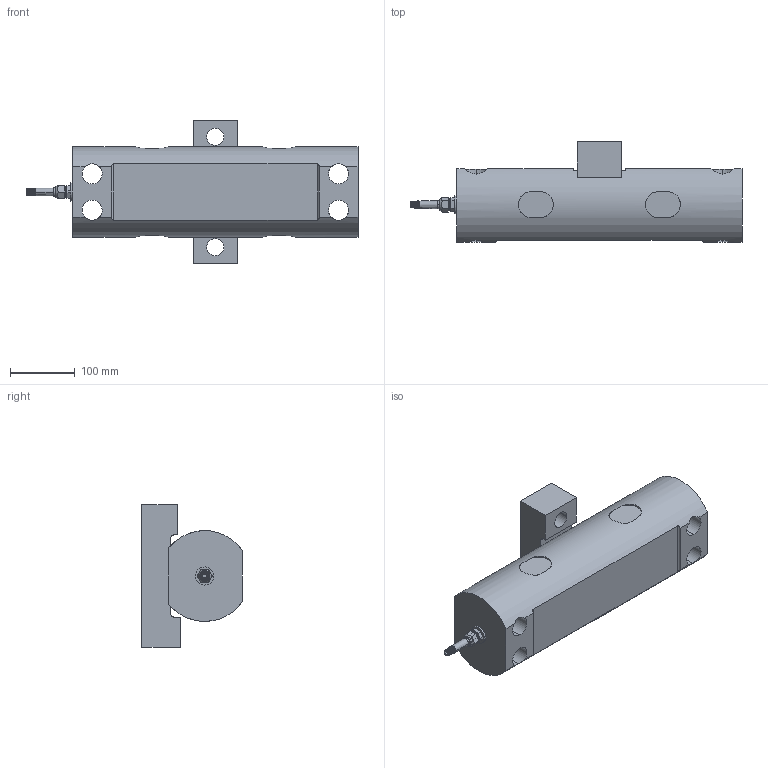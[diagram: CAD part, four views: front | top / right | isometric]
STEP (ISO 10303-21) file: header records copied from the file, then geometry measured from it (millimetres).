
FILE_DESCRIPTION (( 'STEP AP214' ), '1' );
FILE_NAME ('KIMD-M 0,5-1 MN.STEP', '2021-06-17T09:19:48', ( '' ), ( '' ), 'SwSTEP 2.0', 'SolidWorks 2021', '' );
FILE_SCHEMA (( 'AUTOMOTIVE_DESIGN' ));
Length unit declared in the file: millimetre
Products named in the file (7): PUR KIMD-M; M26x1.5 - Pg9 - 6369829; MC6S M24x50; KIMD-M 0,5-1 MN; pg 9 kabelförskruvning; Element KIMD-M 0,5-1 MN; Ok KIMD-M 0,5-1 MN
Assembly tree (10 placements, depth 2):
  KIMD-M 0,5-1 MN
    Element KIMD-M 0,5-1 MN
    M26x1.5 - Pg9 - 6369829
    pg 9 kabelförskruvning
    PUR KIMD-M  x4
    Ok KIMD-M 0,5-1 MN
    MC6S M24x50  x2
Bounding box: 512 x 155 x 220 mm (x, y, z)
Volume: 6168056.9 mm3; surface area: 414373.1 mm2
Topology: 10 solids, 13 shells, 663 faces, 1467 edges, 841 vertices
Faces by surface type: cone 192, cylinder 179, torus 150, plane 116, bspline 26
Entity records: 15329 total; most frequent: CARTESIAN_POINT 3450, DIRECTION 2450, ORIENTED_EDGE 2100, EDGE_CURVE 1050, AXIS2_PLACEMENT_3D 1017, VERTEX_POINT 623, CIRCLE 570, EDGE_LOOP 501
